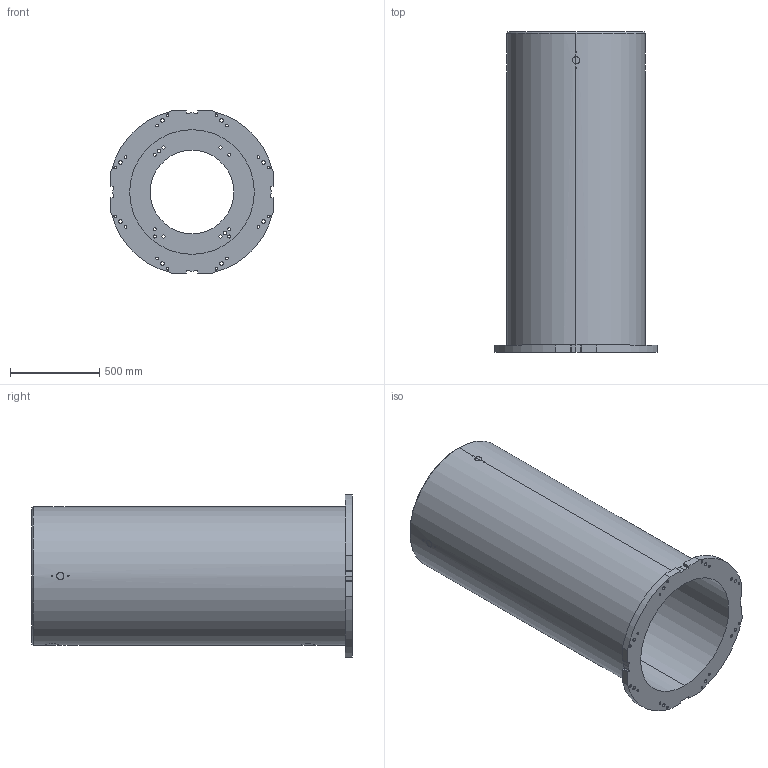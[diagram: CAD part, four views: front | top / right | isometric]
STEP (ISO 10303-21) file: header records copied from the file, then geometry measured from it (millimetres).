
FILE_DESCRIPTION (( 'STEP AP214' ), '1' );
FILE_NAME ('P-1800.STEP', '2024-01-24T09:23:06', ( '' ), ( '' ), 'SwSTEP 2.0', 'SolidWorks 2022', '' );
FILE_SCHEMA (( 'AUTOMOTIVE_DESIGN' ));
Length unit declared in the file: millimetre
Products named in the file (1): P-1800
Bounding box: 910 x 1800 x 910 mm (x, y, z)
Volume: 182919729.3 mm3; surface area: 9429053.2 mm2
Topology: 1 solids, 1 shells, 203 faces, 549 edges, 360 vertices
Faces by surface type: cylinder 149, plane 28, bspline 24, cone 2
Entity records: 12215 total; most frequent: CARTESIAN_POINT 6164, ORIENTED_EDGE 1098, DIRECTION 969, EDGE_CURVE 549, AXIS2_PLACEMENT_3D 378, VERTEX_POINT 360, EDGE_LOOP 289, VECTOR 213
